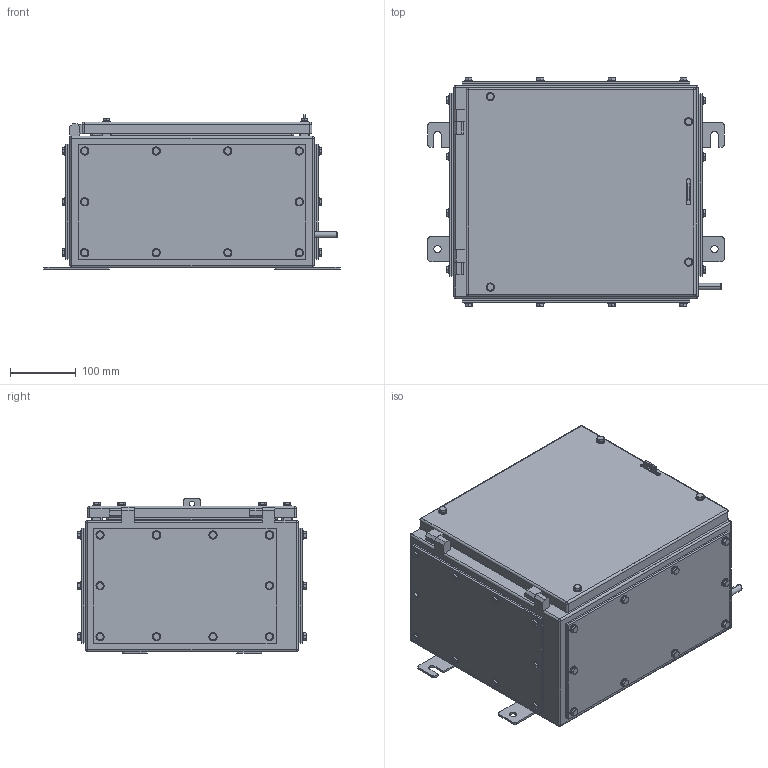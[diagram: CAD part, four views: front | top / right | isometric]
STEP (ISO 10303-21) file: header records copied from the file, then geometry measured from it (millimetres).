
FILE_DESCRIPTION (( 'STEP AP203' ), '1' );
FILE_NAME ('SX2_200_4GP.STEP', '2021-05-20T09:51:50', ( '' ), ( '' ), 'SwSTEP 2.0', 'SolidWorks 2020', '' );
FILE_SCHEMA (( 'CONFIG_CONTROL_DESIGN' ));
Length unit declared in the file: millimetre
Products named in the file (9): SX2_200_4GP Body; SX2-200 side Gland plate; SX2-200 side Gasket; hex screw gradec_bsi_ISO 4018 - M6 x 16-WN; SX2-200 Base Gland plate; plain washer form a_bsi_Bright washer BS 4320 - M6 (Form A); SX2 Door; SX2-200 Base Gasket; SX2_200_4GP
Assembly tree (98 placements, depth 2):
  SX2_200_4GP
    SX2 Door
    hex screw gradec_bsi_ISO 4018 - M6 x 16-WN  x44
    plain washer form a_bsi_Bright washer BS 4320 - M6 (Form A)  x44
    SX2_200_4GP Body
    SX2-200 Base Gasket  x2
    SX2-200 Base Gland plate  x2
    SX2-200 side Gasket  x2
    SX2-200 side Gland plate  x2
Bounding box: 452 x 347.95 x 236 mm (x, y, z)
Volume: 1888258.1 mm3; surface area: 1582230.6 mm2
Topology: 98 solids, 98 shells, 2310 faces, 5042 edges, 3048 vertices
Faces by surface type: plane 1050, cylinder 852, cone 360, sphere 40, torus 8
Entity records: 25923 total; most frequent: DIRECTION 4366, CARTESIAN_POINT 3800, ORIENTED_EDGE 3508, EDGE_CURVE 1754, AXIS2_PLACEMENT_3D 1750, VERTEX_POINT 1112, EDGE_LOOP 998, CIRCLE 876
